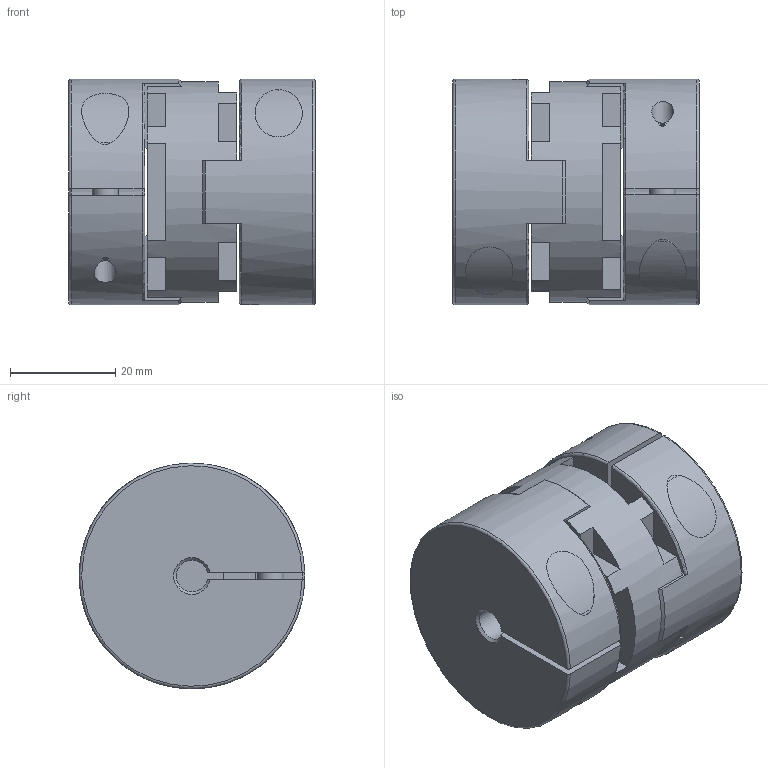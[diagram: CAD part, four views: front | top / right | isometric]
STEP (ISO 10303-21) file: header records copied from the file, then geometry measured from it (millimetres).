
FILE_DESCRIPTION( ( 'Unknown' ), '1' );
FILE_NAME( 'F:/JAKOB-STEP+IGES-Dateien/STEP-Dateien/MOH-C/MOH-C 43.stp', 'Unknown', ( 'Unknown' ), ( 'Unknown' ), 'PSStep 10.1', 'Unknown', ' ' );
FILE_SCHEMA( ( 'AUTOMOTIVE_DESIGN { 1 0 10303 214 1 1 1 1 }' ) );
Length unit declared in the file: millimetre
Products named in the file (1): KT103010
Bounding box: 47 x 43 x 43 mm (x, y, z)
Volume: 57862.4 mm3; surface area: 17593.3 mm2
Topology: 1 solids, 3 shells, 147 faces, 392 edges, 255 vertices
Faces by surface type: plane 98, cylinder 23, cone 16, torus 10
Full cylindrical faces by diameter (mm): 4.134 x2, 5 x2, 5.5 x2, 8.5 x2, 9 x2, 42 x1
Entity records: 5932 total; most frequent: CARTESIAN_POINT 1154, DIRECTION 752, ORIENTED_EDGE 736, EDGE_CURVE 368, AXIS2_PLACEMENT_3D 268, VERTEX_POINT 248, LINE 216, VECTOR 216
